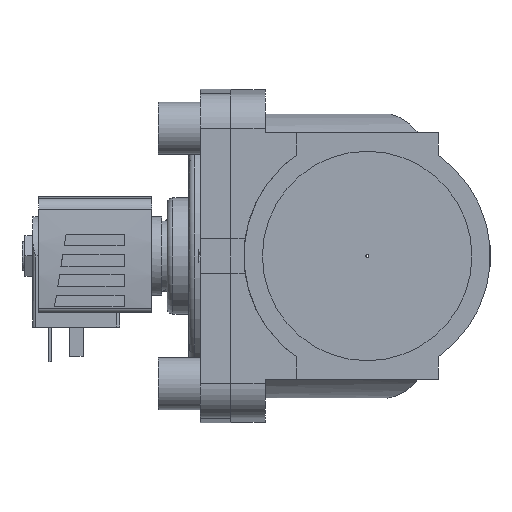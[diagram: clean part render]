
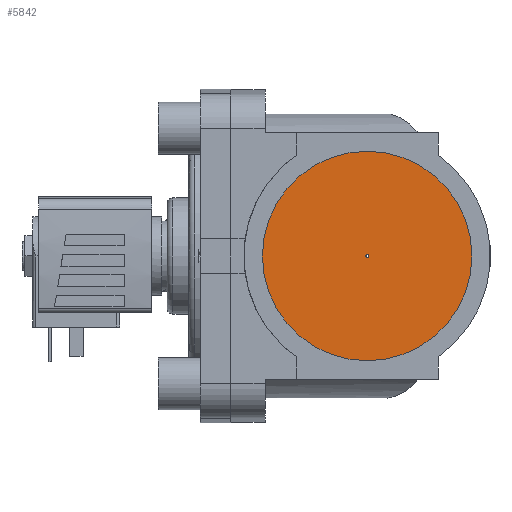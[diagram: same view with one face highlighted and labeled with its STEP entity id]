
A CAD part, left-side view. The second image highlights one B-rep face of the part: STEP entity #5842.
In plain terms, the highlighted planar face has unit normal (-1, 0, 0).
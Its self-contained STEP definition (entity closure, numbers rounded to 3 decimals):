
#1842=ORIENTED_EDGE('',*,*,#2738,.T.);
#1843=ORIENTED_EDGE('',*,*,#2737,.F.);
#2737=EDGE_CURVE('',#3255,#3255,#3518,.T.);
#2738=EDGE_CURVE('',#3256,#3256,#3519,.T.);
#3255=VERTEX_POINT('',#8588);
#3256=VERTEX_POINT('',#8591);
#3518=CIRCLE('',#6230,37.592);
#3519=CIRCLE('',#6232,0.5);
#3739=EDGE_LOOP('',(#1842));
#3740=EDGE_LOOP('',(#1843));
#4044=FACE_BOUND('',#3739,.T.);
#4045=FACE_BOUND('',#3740,.T.);
#4275=PLANE('',#6231);
#5842=ADVANCED_FACE('',(#4044,#4045),#4275,.T.);
#6230=AXIS2_PLACEMENT_3D('',#8587,#7200,#7201);
#6231=AXIS2_PLACEMENT_3D('',#8589,#7202,#7203);
#6232=AXIS2_PLACEMENT_3D('',#8590,#7204,#7205);
#7200=DIRECTION('',(1.,0.,0.));
#7201=DIRECTION('',(0.,0.,-1.));
#7202=DIRECTION('',(-1.,0.,0.));
#7203=DIRECTION('',(0.,0.,1.));
#7204=DIRECTION('',(1.,0.,0.));
#7205=DIRECTION('',(0.,0.,-1.));
#8587=CARTESIAN_POINT('',(-65.,-47.,0.));
#8588=CARTESIAN_POINT('',(-65.,-47.,-37.592));
#8589=CARTESIAN_POINT('',(-65.,-9.408,0.));
#8590=CARTESIAN_POINT('',(-65.,-47.,0.));
#8591=CARTESIAN_POINT('',(-65.,-47.,-0.5));
